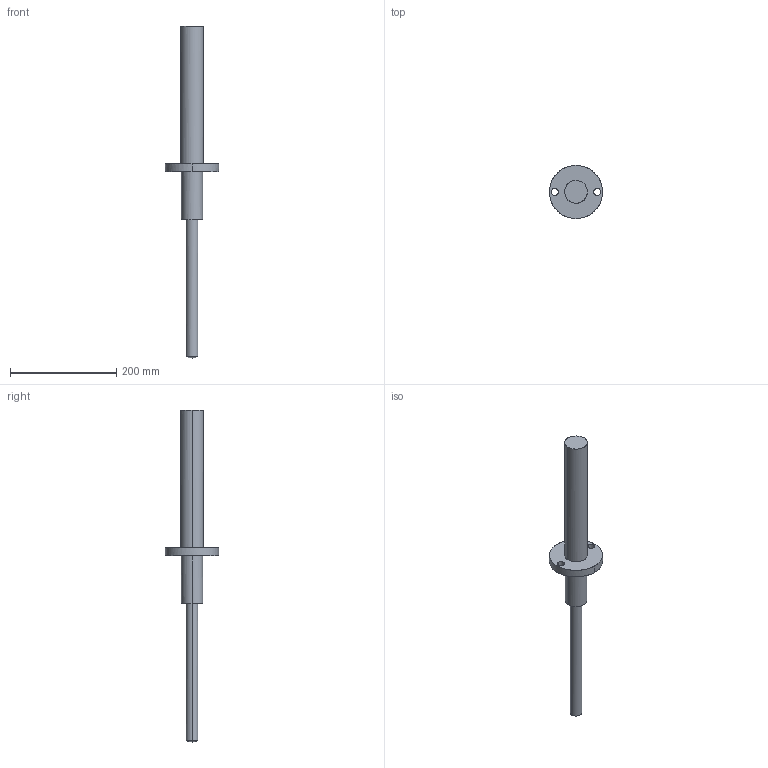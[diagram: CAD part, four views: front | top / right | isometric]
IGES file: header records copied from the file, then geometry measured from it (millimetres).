
Global section: file name: E:\UnigraphicsGraphicData\MISUMI_PRESS-PARTS\IGES\3d_paps250-90_01685_r00.igs; native system: NX V5.0; preprocessor: UGS NX IGES V5.0; author: MISUMI; date: 20110105.162224; units: millimetre
Bounding box: 100 x 100 x 624 mm (x, y, z)
Surface area: 89891 mm2 (no closed solid volume)
Topology: 0 solids, 0 shells, 22 faces, 232 edges, 230 vertices
Faces by surface type: bspline 22
